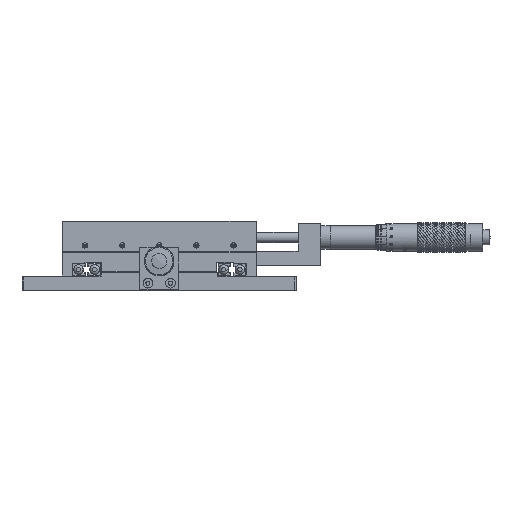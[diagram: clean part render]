
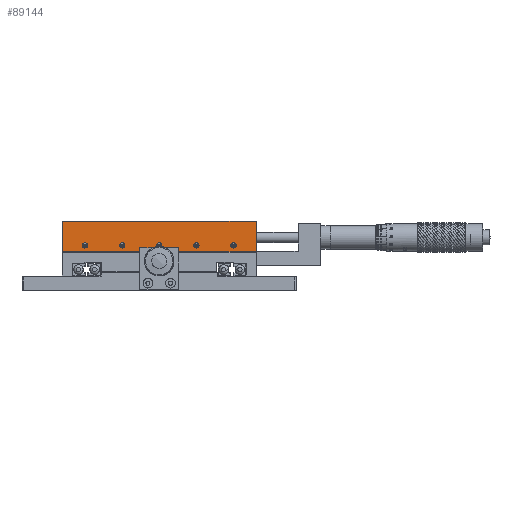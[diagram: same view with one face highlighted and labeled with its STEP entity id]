
A CAD part, top view. The second image highlights one B-rep face of the part: STEP entity #89144.
In plain terms, the highlighted planar face has unit normal (0, 0, 1).
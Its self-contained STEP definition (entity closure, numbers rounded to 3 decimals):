
#40020 = PLANE ( 'NONE',  #265207 ) ;
#40051 = CARTESIAN_POINT ( 'NONE',  ( 38.605, 28.305, 60. ) ) ;
#40058 = DIRECTION ( 'NONE',  ( 0., 0., -1. ) ) ;
#40061 = DIRECTION ( 'NONE',  ( 1., 0., 0. ) ) ;
#42616 = FACE_BOUND ( 'NONE', #138964, .T. ) ;
#42617 = FACE_BOUND ( 'NONE', #138762, .T. ) ;
#42619 = FACE_BOUND ( 'NONE', #138974, .T. ) ;
#42621 = FACE_BOUND ( 'NONE', #138977, .T. ) ;
#42622 = FACE_BOUND ( 'NONE', #138980, .T. ) ;
#42623 = FACE_OUTER_BOUND ( 'NONE', #138983, .T. ) ;
#80444 = LINE ( 'NONE', #192289, #80463 ) ;
#80463 = VECTOR ( 'NONE', #192335, 1000. ) ;
#80467 = LINE ( 'NONE', #192303, #80482 ) ;
#80482 = VECTOR ( 'NONE', #192360, 1000. ) ;
#80510 = LINE ( 'NONE', #192430, #80515 ) ;
#80515 = VECTOR ( 'NONE', #192435, 1000. ) ;
#80542 = LINE ( 'NONE', #192496, #80547 ) ;
#80545 = CIRCLE ( 'NONE', #187283, 1.65 ) ;
#80547 = VECTOR ( 'NONE', #192501, 1000. ) ;
#80555 = CIRCLE ( 'NONE', #187291, 1.65 ) ;
#80559 = CIRCLE ( 'NONE', #187298, 1.65 ) ;
#80566 = CIRCLE ( 'NONE', #187311, 1.65 ) ;
#80568 = CIRCLE ( 'NONE', #187314, 1.65 ) ;
#87377 = VERTEX_POINT ( 'NONE', #274789 ) ;
#87390 = VERTEX_POINT ( 'NONE', #274837 ) ;
#87392 = VERTEX_POINT ( 'NONE', #274852 ) ;
#87398 = VERTEX_POINT ( 'NONE', #274958 ) ;
#89144 = ADVANCED_FACE ( 'NONE', ( #42617, #42616, #42619, #42621, #42622, #42623 ), #40020, .F. ) ;
#125726 = CARTESIAN_POINT ( 'NONE',  ( -69.045, 13.305, 60. ) ) ;
#125729 = CARTESIAN_POINT ( 'NONE',  ( -46.045, 13.305, 60. ) ) ;
#125733 = CARTESIAN_POINT ( 'NONE',  ( -23.045, 13.305, 60. ) ) ;
#125740 = CARTESIAN_POINT ( 'NONE',  ( -0.045, 13.305, 60. ) ) ;
#125742 = CARTESIAN_POINT ( 'NONE',  ( 22.955, 13.305, 60. ) ) ;
#126009 = VERTEX_POINT ( 'NONE', #125726 ) ;
#126013 = VERTEX_POINT ( 'NONE', #125729 ) ;
#126016 = VERTEX_POINT ( 'NONE', #125733 ) ;
#126024 = VERTEX_POINT ( 'NONE', #125740 ) ;
#126026 = VERTEX_POINT ( 'NONE', #125742 ) ;
#130112 = EDGE_CURVE ( 'NONE', #87390, #87377, #80444, .T. ) ;
#130137 = EDGE_CURVE ( 'NONE', #87377, #87398, #80467, .T. ) ;
#130200 = EDGE_CURVE ( 'NONE', #87392, #87398, #80510, .T. ) ;
#130264 = EDGE_CURVE ( 'NONE', #87390, #87392, #80542, .T. ) ;
#130269 = EDGE_CURVE ( 'NONE', #126009, #126009, #80545, .T. ) ;
#130280 = EDGE_CURVE ( 'NONE', #126013, #126013, #80555, .T. ) ;
#130296 = EDGE_CURVE ( 'NONE', #126016, #126016, #80559, .T. ) ;
#130317 = EDGE_CURVE ( 'NONE', #126024, #126024, #80566, .T. ) ;
#130325 = EDGE_CURVE ( 'NONE', #126026, #126026, #80568, .T. ) ;
#138762 = EDGE_LOOP ( 'NONE', ( #316161 ) ) ;
#138964 = EDGE_LOOP ( 'NONE', ( #316168 ) ) ;
#138974 = EDGE_LOOP ( 'NONE', ( #316172 ) ) ;
#138977 = EDGE_LOOP ( 'NONE', ( #316179 ) ) ;
#138980 = EDGE_LOOP ( 'NONE', ( #316183 ) ) ;
#138983 = EDGE_LOOP ( 'NONE', ( #316189, #316194, #316200, #316205 ) ) ;
#187283 = AXIS2_PLACEMENT_3D ( 'NONE', #192512, #192515, #192518 ) ;
#187291 = AXIS2_PLACEMENT_3D ( 'NONE', #192536, #192539, #192542 ) ;
#187298 = AXIS2_PLACEMENT_3D ( 'NONE', #192560, #192563, #192566 ) ;
#187311 = AXIS2_PLACEMENT_3D ( 'NONE', #192612, #192615, #192618 ) ;
#187314 = AXIS2_PLACEMENT_3D ( 'NONE', #192625, #192628, #192630 ) ;
#192289 = CARTESIAN_POINT ( 'NONE',  ( 38.605, 28.305, 60. ) ) ;
#192303 = CARTESIAN_POINT ( 'NONE',  ( -81.395, 28.305, 60. ) ) ;
#192335 = DIRECTION ( 'NONE',  ( -1., 0., 0. ) ) ;
#192360 = DIRECTION ( 'NONE',  ( 0., -1., 0. ) ) ;
#192430 = CARTESIAN_POINT ( 'NONE',  ( 38.605, 9.305, 60. ) ) ;
#192435 = DIRECTION ( 'NONE',  ( -1., 0., 0. ) ) ;
#192496 = CARTESIAN_POINT ( 'NONE',  ( 38.605, 28.305, 60. ) ) ;
#192501 = DIRECTION ( 'NONE',  ( 0., -1., 0. ) ) ;
#192512 = CARTESIAN_POINT ( 'NONE',  ( -67.395, 13.305, 60. ) ) ;
#192515 = DIRECTION ( 'NONE',  ( 0., 0., 1. ) ) ;
#192518 = DIRECTION ( 'NONE',  ( -1., 0., 0. ) ) ;
#192536 = CARTESIAN_POINT ( 'NONE',  ( -44.395, 13.305, 60. ) ) ;
#192539 = DIRECTION ( 'NONE',  ( 0., 0., 1. ) ) ;
#192542 = DIRECTION ( 'NONE',  ( -1., 0., 0. ) ) ;
#192560 = CARTESIAN_POINT ( 'NONE',  ( -21.395, 13.305, 60. ) ) ;
#192563 = DIRECTION ( 'NONE',  ( 0., 0., 1. ) ) ;
#192566 = DIRECTION ( 'NONE',  ( -1., 0., 0. ) ) ;
#192612 = CARTESIAN_POINT ( 'NONE',  ( 1.605, 13.305, 60. ) ) ;
#192615 = DIRECTION ( 'NONE',  ( 0., 0., 1. ) ) ;
#192618 = DIRECTION ( 'NONE',  ( -1., 0., 0. ) ) ;
#192625 = CARTESIAN_POINT ( 'NONE',  ( 24.605, 13.305, 60. ) ) ;
#192628 = DIRECTION ( 'NONE',  ( 0., 0., 1. ) ) ;
#192630 = DIRECTION ( 'NONE',  ( -1., 0., 0. ) ) ;
#265207 = AXIS2_PLACEMENT_3D ( 'NONE', #40051, #40058, #40061 ) ;
#274789 = CARTESIAN_POINT ( 'NONE',  ( -81.395, 28.305, 60. ) ) ;
#274837 = CARTESIAN_POINT ( 'NONE',  ( 38.605, 28.305, 60. ) ) ;
#274852 = CARTESIAN_POINT ( 'NONE',  ( 38.605, 9.305, 60. ) ) ;
#274958 = CARTESIAN_POINT ( 'NONE',  ( -81.395, 9.305, 60. ) ) ;
#316161 = ORIENTED_EDGE ( 'NONE', *, *, #130325, .F. ) ;
#316168 = ORIENTED_EDGE ( 'NONE', *, *, #130317, .F. ) ;
#316172 = ORIENTED_EDGE ( 'NONE', *, *, #130296, .F. ) ;
#316179 = ORIENTED_EDGE ( 'NONE', *, *, #130280, .F. ) ;
#316183 = ORIENTED_EDGE ( 'NONE', *, *, #130269, .F. ) ;
#316189 = ORIENTED_EDGE ( 'NONE', *, *, #130137, .T. ) ;
#316194 = ORIENTED_EDGE ( 'NONE', *, *, #130200, .F. ) ;
#316200 = ORIENTED_EDGE ( 'NONE', *, *, #130264, .F. ) ;
#316205 = ORIENTED_EDGE ( 'NONE', *, *, #130112, .T. ) ;
